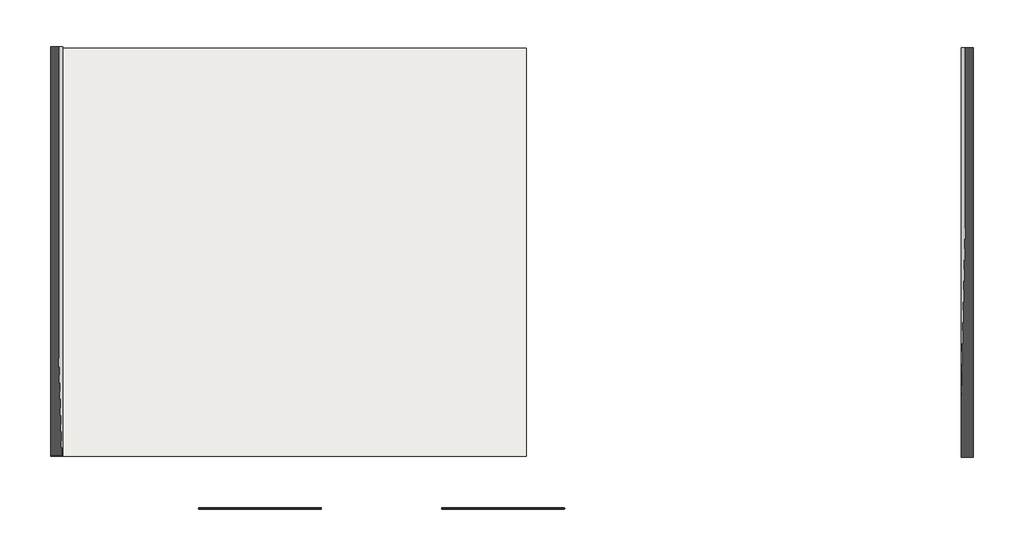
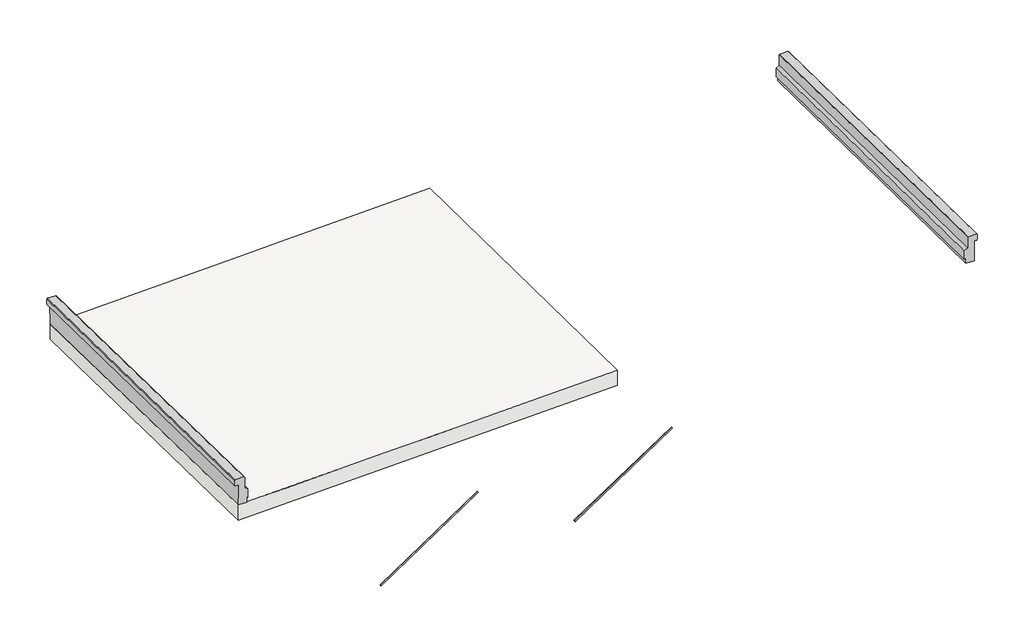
# One storey: 2 beams, 2 proxies, 1 slab.
"""IFC4 building model written with IfcOpenShell, lengths in millimetres."""

from ifc_helpers import new_model, si_unit, frame, origin, place, context, project, spatial, polyline, outline, extrude, transform, mapped, element, save
from ifc_brep_helpers import plane_surface, spline_surface, advanced_brep
from components import d300200_67c6fa93

model = new_model("IFC4")

# Units and contexts
model_context = context("Model", 3, world=origin())
ifc_project = project(units=[si_unit("LENGTHUNIT", "METRE", prefix="MILLI")], contexts=[model_context])

# Site, building, storey
site = spatial("IfcSite", under=ifc_project)
building = spatial("IfcBuilding", under=site)
storey = spatial("IfcBuildingStorey", under=building, Name="Niveau bas traverse supérieure (axe RD 12)", Elevation=6550.0)

# Beams
placement = place(None, origin())
element("IfcBeam", 1, ObjectType="Garde corps : Garde-corps OA 450", at=placement, inside=storey, context=model_context, shape_type="SweptSolid", body=[
    extrude(outline(polyline([(0.0, 0.0), (28.2842712, 0.0), (142.6587931, -114.3745219), (142.6587931, -142.6587931), (-41.18897, -326.5065562), (-69.4732413, -326.5065562), (-309.8895469, -86.0902506), (-423.0266319, -114.3745218), (-613.9454628, 76.5443091), (-571.5190559, 90.6864447), (-693.8485291, 213.0159179), (-510.000766, 396.863681), (-56.5685425, -56.5685425), (0.0, 0.0)])), frame((-11795.5431597, 5582.6271828, 7768.0672163), z_axis=(0.0, -0.9998337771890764, 0.018232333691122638), x_axis=(-0.7071067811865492, 0.012892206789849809, 0.7069892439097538)), (0.0, 0.0, 1.0), 10075.4),
])
element("IfcBeam", 2, ObjectType="Garde corps : Garde-corps OA 450", at=placement, inside=storey, context=model_context, shape_type="SweptSolid", body=[
    extrude(outline(polyline([(0.0, 0.0), (-56.5685425, 56.5685425), (-510.000766, -396.863681), (-693.8485291, -213.0159179), (-571.5190559, -90.6864447), (-613.9454628, -76.5443091), (-423.0266318, 114.3745219), (-309.8895469, 86.0902506), (-69.4732412, 326.5065562), (-41.18897, 326.5065562), (142.6587931, 142.6587931), (142.6587931, 114.3745219), (28.2842712, 0.0), (0.0, 0.0)])), frame((11086.7321784, 5557.1333821, 7843.093822), z_axis=(0.0, -0.9998932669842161, 0.014610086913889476), x_axis=(0.7071067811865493, 0.010330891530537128, 0.7070313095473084)), (0.0, 0.0, 1.0), 10075.4),
])

# Proxies
d300200_shape = d300200_67c6fa93(model_context)
element("IfcBuildingElementProxy", 3, Name="MILLS_ACRAM_DIAGONALE : d300200", ObjectType="MILLS_ACRAM_DIAGONALE : d300200", at=placement, inside=storey, context=model_context, shape_type="MappedRepresentation", body=[
    mapped(d300200_shape, transform((-1426.3388775, -5707.606736, 4192.1454412), x_axis=(1.0, 0.0, 0.0), y_axis=(0.0, 1.0, 0.0), z_axis=(0.0, 0.0, 1.0))),
])
element("IfcBuildingElementProxy", 4, Name="MILLS_ACRAM_DIAGONALE : d300200", ObjectType="MILLS_ACRAM_DIAGONALE : d300200", at=placement, inside=storey, context=model_context, shape_type="MappedRepresentation", body=[
    mapped(d300200_shape, transform((-7417.1798965, -5707.606736, 4192.1454412), x_axis=(1.0, 0.0, 0.0), y_axis=(0.0, 1.0, 0.0), z_axis=(0.0, 0.0, 1.0))),
])

# Slab
element("IfcSlab", 5, ObjectType="Traverse supérieure", at=placement, inside=storey, context=model_context, shape_type="AdvancedBrep", body=[
    advanced_brep(
    [(0.0, 5550.0000072, 6950.0), (0.0, 5550.0000072, 7450.0), (0.0, -4499.9999928, 7612.0363401), (0.0, -4499.9999928, 7112.0363401), (-11715.5431597, -4499.9999928, 7310.2654165), (-11715.5431597, -4499.9999928, 6810.2654165), (-11715.5431597, 5550.0000072, 7120.8146849), (-11715.5431597, 5550.0000072, 6620.8146849), (-5.9021213, 5550.0000072, 6949.8341612), (-11711.3476766, 5550.0000072, 6620.9325703)],
    [
        (0, 1),
        (1, 2),
        (2, 3),
        (3, 0),
        (2, 4),
        (4, 5),
        (5, 3),
        (4, 6),
        (6, 7),
        (7, 5),
        (6, 1),
        (0, 8),
        (8, 9),
        (9, 7),
    ],
    [
        plane_surface(frame((0.0, 5550.0000072, 8050.0), z_axis=(1.0, 0.0, 0.0), x_axis=(0.0, 0.0, 1.0))),
        plane_surface(frame((0.0, -4499.9999928, 8050.0), z_axis=(0.0, -1.0, 0.0), x_axis=(0.0, 0.0, 1.0))),
        plane_surface(frame((-11715.5431597, -4499.9999928, 8050.0), z_axis=(-1.0, 0.0, 0.0), x_axis=(0.0, 0.0, 1.0))),
        plane_surface(frame((-11715.5431597, 5550.0000072, 8050.0), z_axis=(0.0, 1.0, 0.0), x_axis=(0.0, 0.0, 1.0))),
        spline_surface(1, 1, [[(-11715.5431597, -4499.9999928, 7310.2654165), (-11715.5431597, 5550.0000072, 7120.8146849)], [(0.0, -4499.9999928, 7612.0363401), (0.0, 5550.0000072, 7450.0)]], [2, 2], [2, 2], [0.0, 1.0], [0.0, 1.0]),
        spline_surface(1, 1, [[(-11715.5431597, -4499.9999928, 6810.2654165), (0.0, -4499.9999928, 7112.0363401)], [(-11715.5431597, 5550.0000072, 6620.8146849), (0.0, 5550.0000072, 6950.0)]], [2, 2], [2, 2], [0.0, 1.0], [0.0, 1.0]),
    ],
    [
        (0, [[1, 2, 3, 4]]),
        (1, [[-3, 5, 6, 7]]),
        (2, [[-6, 8, 9, 10]]),
        (3, [[-9, 11, -1, 12, 13, 14]]),
        (4, [[-8, -5, -2, -11]]),
        (5, [[-14, -13, -12, -4, -7, -10]]),
    ],
),
])

save(model, "model.ifc")
